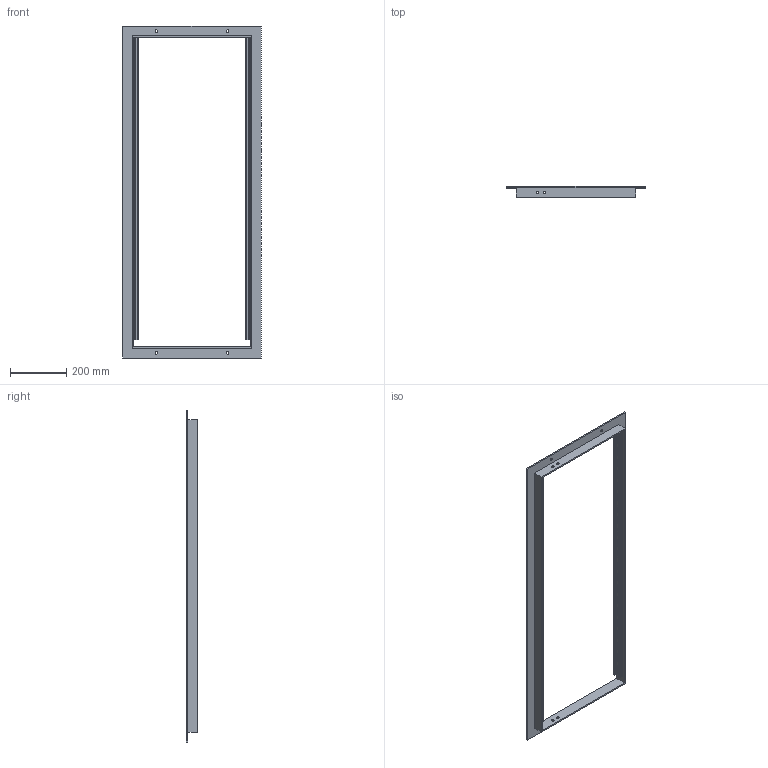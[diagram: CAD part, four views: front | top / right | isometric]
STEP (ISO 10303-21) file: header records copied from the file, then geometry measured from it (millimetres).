
FILE_DESCRIPTION (( 'STEP AP214' ), '1' );
FILE_NAME ('KP_DCF1230P.step', '2013-05-14T14:17:19', ( 'robinj' ), ( 'Microsoft' ), 'SwSTEP 2.0', 'SolidWorks 2013', '' );
FILE_SCHEMA (( 'AUTOMOTIVE_DESIGN' ));
Length unit declared in the file: millimetre
Products named in the file (1): KP_DCF1230P
Bounding box: 495 x 40 x 1185 mm (x, y, z)
Volume: 1349319 mm3; surface area: 853040.5 mm2
Topology: 47 solids, 47 shells, 1067 faces, 2790 edges, 1860 vertices
Faces by surface type: plane 563, cylinder 418, bspline 86
Entity records: 53064 total; most frequent: CARTESIAN_POINT 14105, ORIENTED_EDGE 5580, DIRECTION 5415, EDGE_CURVE 2790, VERTEX_POINT 1860, AXIS2_PLACEMENT_3D 1818, VECTOR 1779, LINE 1779
